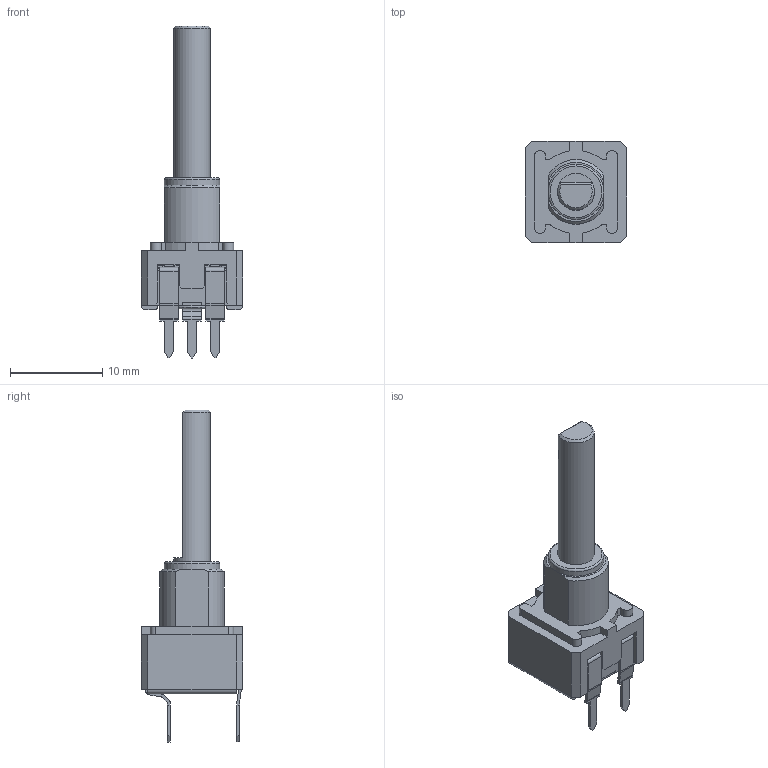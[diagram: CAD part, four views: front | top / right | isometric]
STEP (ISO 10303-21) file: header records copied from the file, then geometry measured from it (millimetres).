
FILE_DESCRIPTION(/* description */ (''),/* implementation_level */ '2;1');
FILE_NAME(/* name */ 'C:\Users\CEM\Desktop\ENVIAR\TRANSICION 3D CATALOGOS\MCA9DV7,5 WT-9020-NE.stp',/* time_stamp */ '2025-11-20T10:49:57+01:00',/* author */ ('CEM'),/* organization */ (''),/* preprocessor_version */ 'ST-DEVELOPER v16.13',/* originating_system */ 'Autodesk Inventor 2018',/* authorisation */ '');
FILE_SCHEMA (('AUTOMOTIVE_DESIGN { 1 0 10303 214 3 1 1 }'));
Length unit declared in the file: millimetre
Products named in the file (1): MCA9DV7,5 WT-9020-NE
Bounding box: 11 x 11 x 35.9 mm (x, y, z)
Volume: 942.4 mm3; surface area: 2120 mm2
Topology: 2 solids, 3 shells, 749 faces, 2100 edges, 1349 vertices
Faces by surface type: plane 570, cylinder 133, torus 24, cone 22
Full cylindrical faces by diameter (mm): 2.8 x1, 3 x1, 3.1 x1, 4 x3, 4.15 x1, 4.7 x1, 4.8 x1, 5 x1, 6 x1
Entity records: 24541 total; most frequent: CARTESIAN_POINT 4344, ORIENTED_EDGE 4146, DIRECTION 3914, EDGE_CURVE 2071, LINE 1644, VECTOR 1644, VERTEX_POINT 1341, AXIS2_PLACEMENT_3D 1135
